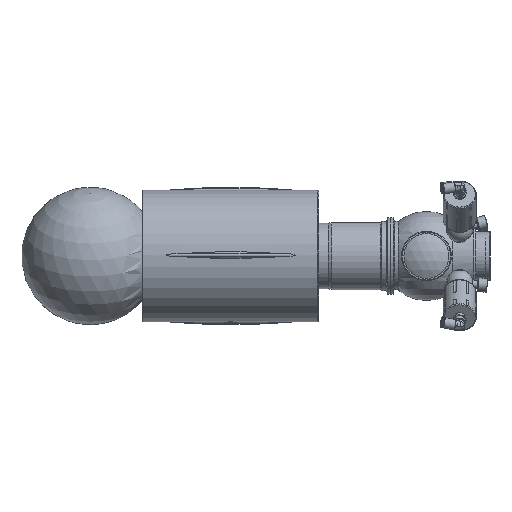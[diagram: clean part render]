
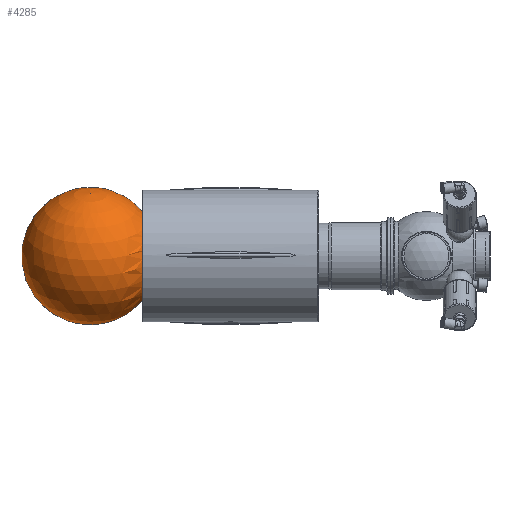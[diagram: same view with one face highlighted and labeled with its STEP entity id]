
A CAD part, left-side view. The second image highlights one B-rep face of the part: STEP entity #4285.
In plain terms, the highlighted spherical face has radius 72.5 mm.
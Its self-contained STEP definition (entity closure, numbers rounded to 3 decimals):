
#157=FACE_BOUND('',#1323,.T.);
#1078=FACE_OUTER_BOUND('',#1322,.T.);
#1322=EDGE_LOOP('',(#3302,#3303));
#1323=EDGE_LOOP('',(#3304));
#1615=CIRCLE('',#4791,72.5);
#1616=CIRCLE('',#4792,46.648);
#1953=VERTEX_POINT('',#7264);
#1954=VERTEX_POINT('',#7265);
#1955=VERTEX_POINT('',#7267);
#2469=EDGE_CURVE('',#1953,#1954,#1615,.T.);
#2470=EDGE_CURVE('',#1955,#1955,#1616,.T.);
#3302=ORIENTED_EDGE('',*,*,#2469,.T.);
#3303=ORIENTED_EDGE('',*,*,#2469,.F.);
#3304=ORIENTED_EDGE('',*,*,#2470,.F.);
#4211=SPHERICAL_SURFACE('',#4790,72.5);
#4285=ADVANCED_FACE('',(#1078,#157),#4211,.T.);
#4790=AXIS2_PLACEMENT_3D('',#7263,#5553,#5554);
#4791=AXIS2_PLACEMENT_3D('',#7266,#5555,#5556);
#4792=AXIS2_PLACEMENT_3D('',#7268,#5557,#5558);
#5553=DIRECTION('center_axis',(0.,0.,1.));
#5554=DIRECTION('ref_axis',(1.,0.,0.));
#5555=DIRECTION('center_axis',(0.,-1.,0.));
#5556=DIRECTION('ref_axis',(-1.,0.,0.));
#5557=DIRECTION('center_axis',(0.,-1.,0.));
#5558=DIRECTION('ref_axis',(1.,0.,0.));
#7263=CARTESIAN_POINT('Origin',(150.,266.5,0.));
#7264=CARTESIAN_POINT('',(150.,266.5,72.5));
#7265=CARTESIAN_POINT('',(150.,266.5,-72.5));
#7266=CARTESIAN_POINT('Origin',(150.,266.5,0.));
#7267=CARTESIAN_POINT('',(196.648,211.,0.));
#7268=CARTESIAN_POINT('Origin',(150.,211.,0.));
